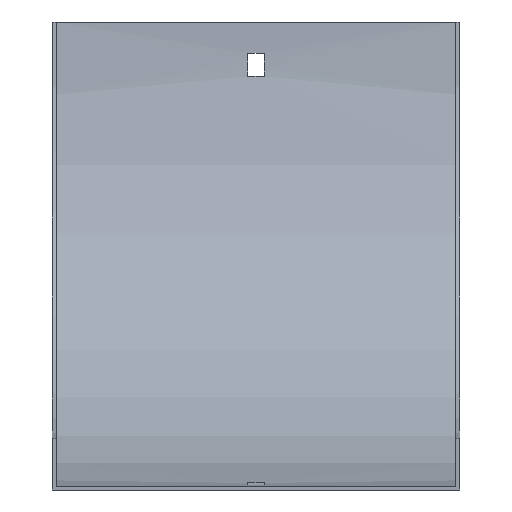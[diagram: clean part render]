
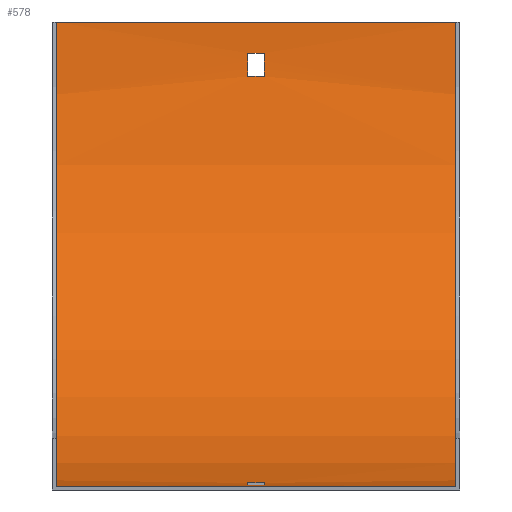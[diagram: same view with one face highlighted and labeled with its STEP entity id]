
A CAD part, front view. The second image highlights one B-rep face of the part: STEP entity #578.
In plain terms, the highlighted cylindrical face has radius 179 mm (diameter 358 mm), a partial arc.
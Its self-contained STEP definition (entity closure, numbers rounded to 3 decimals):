
#3 = EDGE_LOOP ( 'NONE', ( #6, #10, #110, #114 ) ) ;
#6 = ORIENTED_EDGE ( 'NONE', *, *, #405, .T. ) ;
#10 = ORIENTED_EDGE ( 'NONE', *, *, #603, .T. ) ;
#16 = DIRECTION ( 'NONE',  ( -1., 0., 0. ) ) ;
#26 = AXIS2_PLACEMENT_3D ( 'NONE', #156, #257, #353 ) ;
#27 = CIRCLE ( 'NONE', #375, 179. ) ;
#32 = DIRECTION ( 'NONE',  ( 1., 0., 0. ) ) ;
#33 = CARTESIAN_POINT ( 'NONE',  ( -77., -1.5, 0. ) ) ;
#45 = CARTESIAN_POINT ( 'NONE',  ( 78.5, -159.5, -177.764 ) ) ;
#51 = VERTEX_POINT ( 'NONE', #186 ) ;
#63 = FACE_OUTER_BOUND ( 'NONE', #172, .T. ) ;
#67 = CARTESIAN_POINT ( 'NONE',  ( 78.5, -2.736, -21. ) ) ;
#71 = DIRECTION ( 'NONE',  ( 1., 0., 0. ) ) ;
#77 = ORIENTED_EDGE ( 'NONE', *, *, #231, .F. ) ;
#79 = CARTESIAN_POINT ( 'NONE',  ( -77., -180.5, 0. ) ) ;
#80 = ORIENTED_EDGE ( 'NONE', *, *, #319, .F. ) ;
#81 = CARTESIAN_POINT ( 'NONE',  ( 3.25, -180.5, 0. ) ) ;
#85 = CARTESIAN_POINT ( 'NONE',  ( -3.25, -159.5, -177.764 ) ) ;
#86 = ORIENTED_EDGE ( 'NONE', *, *, #249, .T. ) ;
#106 = CARTESIAN_POINT ( 'NONE',  ( 78.5, -1.903, -12. ) ) ;
#110 = ORIENTED_EDGE ( 'NONE', *, *, #346, .T. ) ;
#113 = DIRECTION ( 'NONE',  ( 0., 0., 1. ) ) ;
#114 = ORIENTED_EDGE ( 'NONE', *, *, #543, .T. ) ;
#117 = CARTESIAN_POINT ( 'NONE',  ( 3.25, -2.736, -21. ) ) ;
#122 = VERTEX_POINT ( 'NONE', #328 ) ;
#124 = VERTEX_POINT ( 'NONE', #373 ) ;
#126 = DIRECTION ( 'NONE',  ( -1., 0., 0. ) ) ;
#130 = VECTOR ( 'NONE', #383, 1000. ) ;
#132 = DIRECTION ( 'NONE',  ( 0., 0., 1. ) ) ;
#134 = CARTESIAN_POINT ( 'NONE',  ( -3.25, -168.5, -178.597 ) ) ;
#137 = ORIENTED_EDGE ( 'NONE', *, *, #174, .F. ) ;
#140 = VECTOR ( 'NONE', #597, 1000. ) ;
#156 = CARTESIAN_POINT ( 'NONE',  ( 77., -180.5, 0. ) ) ;
#158 = CARTESIAN_POINT ( 'NONE',  ( 77., -180.5, -179. ) ) ;
#161 = EDGE_CURVE ( 'NONE', #408, #372, #193, .T. ) ;
#172 = EDGE_LOOP ( 'NONE', ( #137, #401, #86, #589 ) ) ;
#174 = EDGE_CURVE ( 'NONE', #124, #372, #424, .T. ) ;
#185 = EDGE_CURVE ( 'NONE', #122, #51, #303, .T. ) ;
#186 = CARTESIAN_POINT ( 'NONE',  ( -3.25, -1.903, -12. ) ) ;
#193 = LINE ( 'NONE', #444, #130 ) ;
#200 = VERTEX_POINT ( 'NONE', #117 ) ;
#202 = CIRCLE ( 'NONE', #26, 179. ) ;
#218 = DIRECTION ( 'NONE',  ( 0., 0., -1. ) ) ;
#231 = EDGE_CURVE ( 'NONE', #385, #200, #296, .T. ) ;
#233 = FACE_BOUND ( 'NONE', #3, .T. ) ;
#237 = CYLINDRICAL_SURFACE ( 'NONE', #496, 179. ) ;
#249 = EDGE_CURVE ( 'NONE', #525, #408, #202, .T. ) ;
#250 = CARTESIAN_POINT ( 'NONE',  ( 3.25, -180.5, 0. ) ) ;
#257 = DIRECTION ( 'NONE',  ( 1., 0., 0. ) ) ;
#260 = DIRECTION ( 'NONE',  ( 0., 0., -1. ) ) ;
#262 = VECTOR ( 'NONE', #71, 1000. ) ;
#275 = CARTESIAN_POINT ( 'NONE',  ( -3.25, -180.5, 0. ) ) ;
#293 = LINE ( 'NONE', #320, #472 ) ;
#295 = CARTESIAN_POINT ( 'NONE',  ( -3.25, -2.736, -21. ) ) ;
#296 = LINE ( 'NONE', #67, #262 ) ;
#301 = ORIENTED_EDGE ( 'NONE', *, *, #596, .F. ) ;
#303 = LINE ( 'NONE', #106, #505 ) ;
#307 = ORIENTED_EDGE ( 'NONE', *, *, #185, .F. ) ;
#309 = VERTEX_POINT ( 'NONE', #85 ) ;
#319 = EDGE_CURVE ( 'NONE', #51, #385, #409, .T. ) ;
#320 = CARTESIAN_POINT ( 'NONE',  ( 77., -180.5, -179. ) ) ;
#328 = CARTESIAN_POINT ( 'NONE',  ( 3.25, -1.903, -12. ) ) ;
#338 = DIRECTION ( 'NONE',  ( -1., 0., 0. ) ) ;
#344 = VERTEX_POINT ( 'NONE', #450 ) ;
#346 = EDGE_CURVE ( 'NONE', #309, #344, #502, .T. ) ;
#353 = DIRECTION ( 'NONE',  ( 0., 0., 1. ) ) ;
#356 = CARTESIAN_POINT ( 'NONE',  ( 3.25, -168.5, -178.597 ) ) ;
#358 = CARTESIAN_POINT ( 'NONE',  ( 77., -1.5, 0. ) ) ;
#367 = VECTOR ( 'NONE', #443, 1000. ) ;
#372 = VERTEX_POINT ( 'NONE', #33 ) ;
#373 = CARTESIAN_POINT ( 'NONE',  ( -77., -180.5, -179. ) ) ;
#375 = AXIS2_PLACEMENT_3D ( 'NONE', #81, #499, #260 ) ;
#383 = DIRECTION ( 'NONE',  ( -1., 0., 0. ) ) ;
#385 = VERTEX_POINT ( 'NONE', #295 ) ;
#400 = VERTEX_POINT ( 'NONE', #134 ) ;
#401 = ORIENTED_EDGE ( 'NONE', *, *, #579, .F. ) ;
#405 = EDGE_CURVE ( 'NONE', #606, #400, #531, .T. ) ;
#408 = VERTEX_POINT ( 'NONE', #358 ) ;
#409 = CIRCLE ( 'NONE', #547, 179. ) ;
#424 = CIRCLE ( 'NONE', #512, 179. ) ;
#428 = CARTESIAN_POINT ( 'NONE',  ( 78.5, -180.5, 0. ) ) ;
#438 = DIRECTION ( 'NONE',  ( 0., 0., 1. ) ) ;
#443 = DIRECTION ( 'NONE',  ( -1., 0., 0. ) ) ;
#444 = CARTESIAN_POINT ( 'NONE',  ( 77., -1.5, 0. ) ) ;
#450 = CARTESIAN_POINT ( 'NONE',  ( 3.25, -159.5, -177.764 ) ) ;
#463 = CIRCLE ( 'NONE', #536, 179. ) ;
#466 = FACE_BOUND ( 'NONE', #478, .T. ) ;
#472 = VECTOR ( 'NONE', #489, 1000. ) ;
#478 = EDGE_LOOP ( 'NONE', ( #80, #307, #301, #77 ) ) ;
#486 = CIRCLE ( 'NONE', #604, 179. ) ;
#489 = DIRECTION ( 'NONE',  ( -1., 0., 0. ) ) ;
#496 = AXIS2_PLACEMENT_3D ( 'NONE', #428, #16, #568 ) ;
#499 = DIRECTION ( 'NONE',  ( 1., 0., 0. ) ) ;
#502 = LINE ( 'NONE', #45, #140 ) ;
#505 = VECTOR ( 'NONE', #574, 1000. ) ;
#512 = AXIS2_PLACEMENT_3D ( 'NONE', #79, #580, #113 ) ;
#525 = VERTEX_POINT ( 'NONE', #158 ) ;
#531 = LINE ( 'NONE', #535, #367 ) ;
#535 = CARTESIAN_POINT ( 'NONE',  ( 78.5, -168.5, -178.597 ) ) ;
#536 = AXIS2_PLACEMENT_3D ( 'NONE', #538, #32, #218 ) ;
#538 = CARTESIAN_POINT ( 'NONE',  ( -3.25, -180.5, 0. ) ) ;
#543 = EDGE_CURVE ( 'NONE', #344, #606, #486, .T. ) ;
#547 = AXIS2_PLACEMENT_3D ( 'NONE', #275, #126, #132 ) ;
#568 = DIRECTION ( 'NONE',  ( 0., 0., 1. ) ) ;
#574 = DIRECTION ( 'NONE',  ( -1., 0., 0. ) ) ;
#578 = ADVANCED_FACE ( 'NONE', ( #466, #63, #233 ), #237, .F. ) ;
#579 = EDGE_CURVE ( 'NONE', #525, #124, #293, .T. ) ;
#580 = DIRECTION ( 'NONE',  ( 1., 0., 0. ) ) ;
#589 = ORIENTED_EDGE ( 'NONE', *, *, #161, .T. ) ;
#596 = EDGE_CURVE ( 'NONE', #200, #122, #27, .T. ) ;
#597 = DIRECTION ( 'NONE',  ( 1., 0., 0. ) ) ;
#603 = EDGE_CURVE ( 'NONE', #400, #309, #463, .T. ) ;
#604 = AXIS2_PLACEMENT_3D ( 'NONE', #250, #338, #438 ) ;
#606 = VERTEX_POINT ( 'NONE', #356 ) ;
